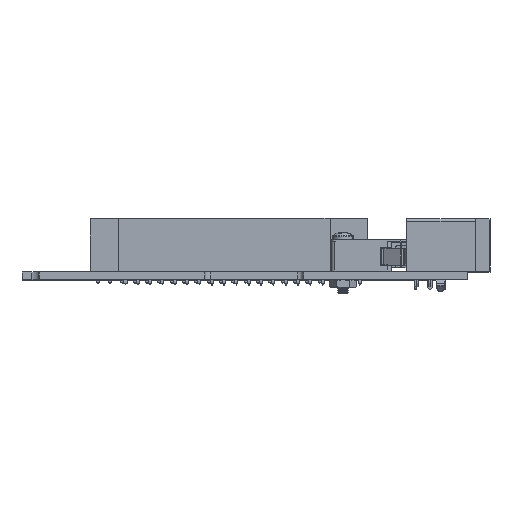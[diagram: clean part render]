
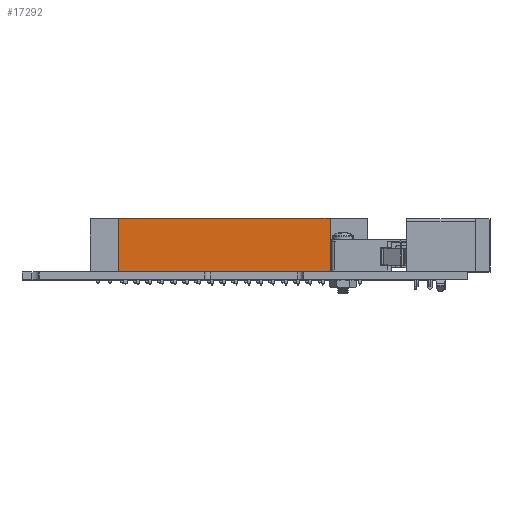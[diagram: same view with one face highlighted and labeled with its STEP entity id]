
A CAD part, top view. The second image highlights one B-rep face of the part: STEP entity #17292.
In plain terms, the highlighted planar face has unit normal (0, 0, 1).
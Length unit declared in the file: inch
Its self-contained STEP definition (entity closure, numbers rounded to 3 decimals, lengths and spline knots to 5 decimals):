
#1079 = DIRECTION ( 'NONE',  ( 0., -1., 0. ) ) ;
#1757 = VERTEX_POINT ( 'NONE', #94971 ) ;
#6522 = EDGE_CURVE ( 'NONE', #58866, #113687, #88828, .T. ) ;
#17292 = ADVANCED_FACE ( 'NONE', ( #66821 ), #47315, .F. ) ;
#22240 = CARTESIAN_POINT ( 'NONE',  ( 0.66, 0.031, 1.2375 ) ) ;
#22360 = CARTESIAN_POINT ( 'NONE',  ( -1.06, 0.466, 1.2375 ) ) ;
#25057 = CARTESIAN_POINT ( 'NONE',  ( -1.06, 0.466, 1.2375 ) ) ;
#29244 = CARTESIAN_POINT ( 'NONE',  ( -1.06, 0.466, 1.2375 ) ) ;
#36379 = LINE ( 'NONE', #22360, #106577 ) ;
#38512 = DIRECTION ( 'NONE',  ( -1., 0., 0. ) ) ;
#40442 = DIRECTION ( 'NONE',  ( 1., 0., 0. ) ) ;
#47315 = PLANE ( 'NONE',  #91732 ) ;
#49652 = CARTESIAN_POINT ( 'NONE',  ( -1.06, 0.031, 1.2375 ) ) ;
#50047 = ORIENTED_EDGE ( 'NONE', *, *, #90868, .F. ) ;
#50936 = ORIENTED_EDGE ( 'NONE', *, *, #97171, .T. ) ;
#52854 = ORIENTED_EDGE ( 'NONE', *, *, #117419, .T. ) ;
#54613 = CARTESIAN_POINT ( 'NONE',  ( 0.66, 0.466, 1.2375 ) ) ;
#58866 = VERTEX_POINT ( 'NONE', #91534 ) ;
#66821 = FACE_OUTER_BOUND ( 'NONE', #73820, .T. ) ;
#71626 = VECTOR ( 'NONE', #79499, 39.37008 ) ;
#73820 = EDGE_LOOP ( 'NONE', ( #50936, #50047, #108083, #52854 ) ) ;
#79499 = DIRECTION ( 'NONE',  ( 1., 0., 0. ) ) ;
#86375 = DIRECTION ( 'NONE',  ( 0., -1., 0. ) ) ;
#88482 = VECTOR ( 'NONE', #1079, 39.37008 ) ;
#88611 = VERTEX_POINT ( 'NONE', #22240 ) ;
#88828 = LINE ( 'NONE', #25057, #71626 ) ;
#90868 = EDGE_CURVE ( 'NONE', #113687, #88611, #91337, .T. ) ;
#91337 = LINE ( 'NONE', #110842, #88482 ) ;
#91534 = CARTESIAN_POINT ( 'NONE',  ( -1.06, 0.466, 1.2375 ) ) ;
#91732 = AXIS2_PLACEMENT_3D ( 'NONE', #29244, #93279, #38512 ) ;
#93279 = DIRECTION ( 'NONE',  ( 0., 0., -1. ) ) ;
#94308 = LINE ( 'NONE', #49652, #115843 ) ;
#94971 = CARTESIAN_POINT ( 'NONE',  ( -1.06, 0.031, 1.2375 ) ) ;
#97171 = EDGE_CURVE ( 'NONE', #1757, #88611, #94308, .T. ) ;
#106577 = VECTOR ( 'NONE', #86375, 39.37008 ) ;
#108083 = ORIENTED_EDGE ( 'NONE', *, *, #6522, .F. ) ;
#110842 = CARTESIAN_POINT ( 'NONE',  ( 0.66, 0.466, 1.2375 ) ) ;
#113687 = VERTEX_POINT ( 'NONE', #54613 ) ;
#115843 = VECTOR ( 'NONE', #40442, 39.37008 ) ;
#117419 = EDGE_CURVE ( 'NONE', #58866, #1757, #36379, .T. ) ;
